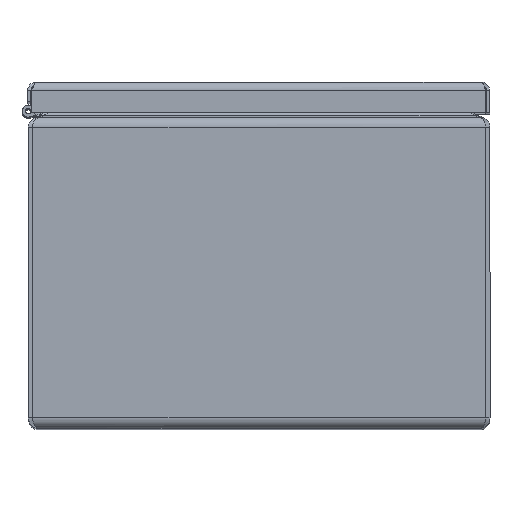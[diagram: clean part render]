
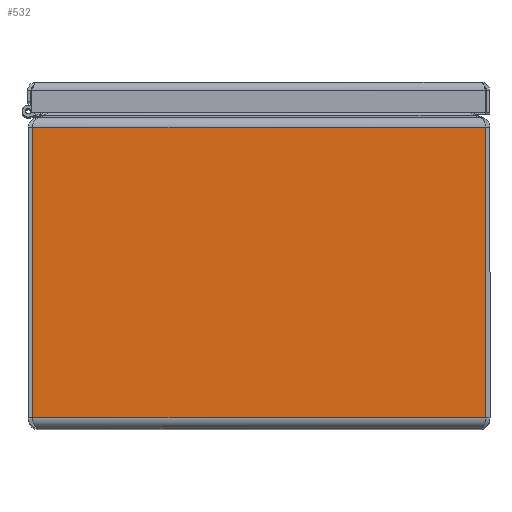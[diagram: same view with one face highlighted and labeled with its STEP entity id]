
A CAD part, top view. The second image highlights one B-rep face of the part: STEP entity #532.
In plain terms, the highlighted planar face has unit normal (0, 0, 1).
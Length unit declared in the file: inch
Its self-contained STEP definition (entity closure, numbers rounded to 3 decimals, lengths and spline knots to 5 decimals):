
#56 = VERTEX_POINT ( 'NONE', #1553 ) ;
#65 = EDGE_CURVE ( 'NONE', #56, #2238, #1615, .T. ) ;
#525 = ORIENTED_EDGE ( 'NONE', *, *, #19456, .F. ) ;
#526 = EDGE_CURVE ( 'NONE', #19476, #56, #3682, .T. ) ;
#529 = ORIENTED_EDGE ( 'NONE', *, *, #537, .T. ) ;
#530 = ORIENTED_EDGE ( 'NONE', *, *, #65, .F. ) ;
#532 = ADVANCED_FACE ( 'NONE', ( #3669 ), #3664, .F. ) ;
#537 = EDGE_CURVE ( 'NONE', #19527, #2238, #3736, .T. ) ;
#542 = EDGE_LOOP ( 'NONE', ( #530, #544, #525, #529 ) ) ;
#544 = ORIENTED_EDGE ( 'NONE', *, *, #526, .F. ) ;
#1553 = CARTESIAN_POINT ( 'NONE',  ( -3.86043, 0.179, 7.8735 ) ) ;
#1612 = DIRECTION ( 'NONE',  ( 0., 1., 0. ) ) ;
#1613 = VECTOR ( 'NONE', #1612, 39.37008 ) ;
#1614 = CARTESIAN_POINT ( 'NONE',  ( -3.86043, 5.13455, 7.8735 ) ) ;
#1615 = LINE ( 'NONE', #1614, #1613 ) ;
#2238 = VERTEX_POINT ( 'NONE', #13688 ) ;
#3658 = DIRECTION ( 'NONE',  ( 0., 1., 0. ) ) ;
#3660 = DIRECTION ( 'NONE',  ( 0., 0., -1. ) ) ;
#3662 = CARTESIAN_POINT ( 'NONE',  ( 82.6715, 5.13455, 7.8735 ) ) ;
#3663 = AXIS2_PLACEMENT_3D ( 'NONE', #3662, #3660, #3658 ) ;
#3664 = PLANE ( 'NONE',  #3663 ) ;
#3669 = FACE_OUTER_BOUND ( 'NONE', #542, .T. ) ;
#3676 = DIRECTION ( 'NONE',  ( -1., 0., 0. ) ) ;
#3678 = VECTOR ( 'NONE', #3676, 39.37008 ) ;
#3680 = CARTESIAN_POINT ( 'NONE',  ( 82.6715, 0.179, 7.8735 ) ) ;
#3682 = LINE ( 'NONE', #3680, #3678 ) ;
#3729 = DIRECTION ( 'NONE',  ( -1., 0., 0. ) ) ;
#3731 = VECTOR ( 'NONE', #3729, 39.37008 ) ;
#3733 = CARTESIAN_POINT ( 'NONE',  ( 82.6715, 5.13455, 7.8735 ) ) ;
#3736 = LINE ( 'NONE', #3733, #3731 ) ;
#5896 = DIRECTION ( 'NONE',  ( 0., -1., 0. ) ) ;
#5897 = VECTOR ( 'NONE', #5896, 39.37008 ) ;
#5898 = CARTESIAN_POINT ( 'NONE',  ( 3.86043, 5.13455, 7.8735 ) ) ;
#5900 = LINE ( 'NONE', #5898, #5897 ) ;
#6071 = CARTESIAN_POINT ( 'NONE',  ( 3.86043, 0.179, 7.8735 ) ) ;
#6442 = CARTESIAN_POINT ( 'NONE',  ( 3.86043, 5.13455, 7.8735 ) ) ;
#13688 = CARTESIAN_POINT ( 'NONE',  ( -3.86043, 5.13455, 7.8735 ) ) ;
#19456 = EDGE_CURVE ( 'NONE', #19527, #19476, #5900, .T. ) ;
#19476 = VERTEX_POINT ( 'NONE', #6071 ) ;
#19527 = VERTEX_POINT ( 'NONE', #6442 ) ;
